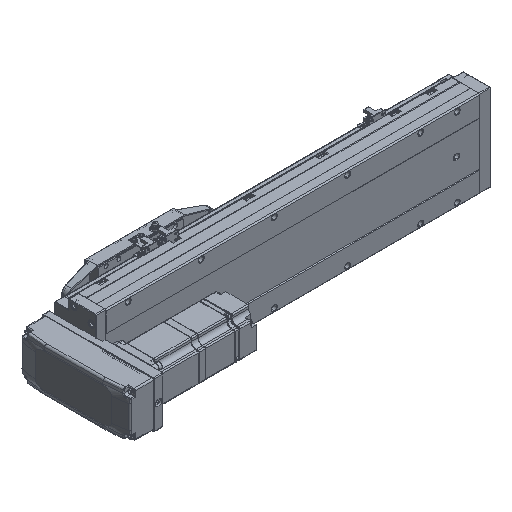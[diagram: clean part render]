
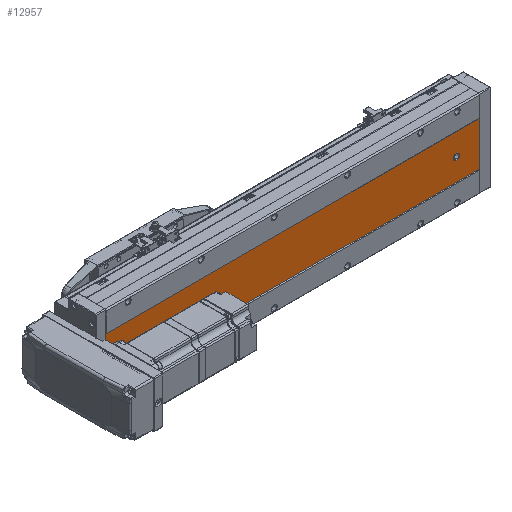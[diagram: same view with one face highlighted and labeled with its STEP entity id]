
A CAD part, isometric view. The second image highlights one B-rep face of the part: STEP entity #12957.
In plain terms, the highlighted planar face has unit normal (0, -1, 0).
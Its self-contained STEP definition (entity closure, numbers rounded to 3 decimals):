
#383 = EDGE_LOOP ( 'NONE', ( #14568, #51239 ) ) ;
#812 = DIRECTION ( 'NONE',  ( 1., 0., 0. ) ) ;
#1805 = CARTESIAN_POINT ( 'NONE',  ( -9.892, -52.848, 0. ) ) ;
#2476 = VERTEX_POINT ( 'NONE', #19369 ) ;
#2483 = LINE ( 'NONE', #50775, #40176 ) ;
#4201 = EDGE_CURVE ( 'NONE', #34751, #29923, #29673, .T. ) ;
#5401 = CARTESIAN_POINT ( 'NONE',  ( -39.892, -52.848, 30. ) ) ;
#6215 = CIRCLE ( 'NONE', #73179, 3.5 ) ;
#6667 = ORIENTED_EDGE ( 'NONE', *, *, #65552, .F. ) ;
#7366 = DIRECTION ( 'NONE',  ( 0., 0., 1. ) ) ;
#8337 = EDGE_LOOP ( 'NONE', ( #60287, #49416 ) ) ;
#8738 = DIRECTION ( 'NONE',  ( 0., 1., 0. ) ) ;
#9258 = CARTESIAN_POINT ( 'NONE',  ( -36.392, -52.848, 511. ) ) ;
#9900 = VECTOR ( 'NONE', #37860, 1000. ) ;
#10125 = VERTEX_POINT ( 'NONE', #61139 ) ;
#10602 = ORIENTED_EDGE ( 'NONE', *, *, #14073, .T. ) ;
#10719 = VECTOR ( 'NONE', #51504, 1000. ) ;
#11552 = VERTEX_POINT ( 'NONE', #50994 ) ;
#12726 = EDGE_CURVE ( 'NONE', #2476, #31392, #30517, .T. ) ;
#12957 = ADVANCED_FACE ( 'NONE', ( #43781, #24233, #59066, #28663 ), #33081, .F. ) ;
#13162 = CARTESIAN_POINT ( 'NONE',  ( -39.892, -52.848, 377.5 ) ) ;
#14073 = EDGE_CURVE ( 'NONE', #36992, #34751, #36427, .T. ) ;
#14568 = ORIENTED_EDGE ( 'NONE', *, *, #44673, .T. ) ;
#14685 = ORIENTED_EDGE ( 'NONE', *, *, #70851, .T. ) ;
#15507 = VERTEX_POINT ( 'NONE', #13162 ) ;
#16308 = CIRCLE ( 'NONE', #30354, 3.5 ) ;
#17006 = DIRECTION ( 'NONE',  ( 0., 1., 0. ) ) ;
#17032 = DIRECTION ( 'NONE',  ( 0., 0., 1. ) ) ;
#17387 = CARTESIAN_POINT ( 'NONE',  ( -39.892, -52.848, 32. ) ) ;
#17985 = EDGE_LOOP ( 'NONE', ( #62099, #71162, #6667, #14685 ) ) ;
#18173 = VECTOR ( 'NONE', #812, 1000. ) ;
#18674 = ORIENTED_EDGE ( 'NONE', *, *, #4201, .T. ) ;
#19369 = CARTESIAN_POINT ( 'NONE',  ( -39.892, -52.848, 484.5 ) ) ;
#19577 = VERTEX_POINT ( 'NONE', #60979 ) ;
#20067 = ORIENTED_EDGE ( 'NONE', *, *, #20276, .T. ) ;
#20192 = AXIS2_PLACEMENT_3D ( 'NONE', #51736, #68341, #52223 ) ;
#20265 = AXIS2_PLACEMENT_3D ( 'NONE', #38920, #56199, #53641 ) ;
#20276 = EDGE_CURVE ( 'NONE', #11552, #19577, #6215, .T. ) ;
#23156 = LINE ( 'NONE', #24145, #49885 ) ;
#24145 = CARTESIAN_POINT ( 'NONE',  ( -69.892, -52.848, 511. ) ) ;
#24233 = FACE_BOUND ( 'NONE', #383, .T. ) ;
#25915 = EDGE_CURVE ( 'NONE', #10125, #33991, #35031, .T. ) ;
#26821 = AXIS2_PLACEMENT_3D ( 'NONE', #49573, #8738, #72688 ) ;
#28663 = FACE_OUTER_BOUND ( 'NONE', #17985, .T. ) ;
#29673 = LINE ( 'NONE', #9258, #9900 ) ;
#29923 = VERTEX_POINT ( 'NONE', #39911 ) ;
#30274 = EDGE_CURVE ( 'NONE', #31392, #2476, #66541, .T. ) ;
#30354 = AXIS2_PLACEMENT_3D ( 'NONE', #46762, #36017, #7366 ) ;
#30517 = CIRCLE ( 'NONE', #37015, 3.5 ) ;
#31392 = VERTEX_POINT ( 'NONE', #36716 ) ;
#31412 = DIRECTION ( 'NONE',  ( 0., 0., 1. ) ) ;
#31647 = LINE ( 'NONE', #46667, #18173 ) ;
#33081 = PLANE ( 'NONE',  #20265 ) ;
#33991 = VERTEX_POINT ( 'NONE', #1805 ) ;
#34298 = CARTESIAN_POINT ( 'NONE',  ( -9.892, -52.848, 511. ) ) ;
#34374 = DIRECTION ( 'NONE',  ( 0., 0., -1. ) ) ;
#34677 = DIRECTION ( 'NONE',  ( 0., 1., 0. ) ) ;
#34751 = VERTEX_POINT ( 'NONE', #47742 ) ;
#35031 = LINE ( 'NONE', #73211, #44805 ) ;
#36017 = DIRECTION ( 'NONE',  ( 0., 1., 0. ) ) ;
#36249 = CARTESIAN_POINT ( 'NONE',  ( -43.392, -52.848, 32. ) ) ;
#36427 = CIRCLE ( 'NONE', #40427, 3.5 ) ;
#36716 = CARTESIAN_POINT ( 'NONE',  ( -39.892, -52.848, 477.5 ) ) ;
#36992 = VERTEX_POINT ( 'NONE', #36249 ) ;
#37015 = AXIS2_PLACEMENT_3D ( 'NONE', #54552, #66118, #65858 ) ;
#37127 = DIRECTION ( 'NONE',  ( 0., 1., 0. ) ) ;
#37860 = DIRECTION ( 'NONE',  ( 0., 0., -1. ) ) ;
#38920 = CARTESIAN_POINT ( 'NONE',  ( -69.892, -52.848, 511. ) ) ;
#39067 = ORIENTED_EDGE ( 'NONE', *, *, #43771, .T. ) ;
#39376 = DIRECTION ( 'NONE',  ( 1., 0., 0. ) ) ;
#39911 = CARTESIAN_POINT ( 'NONE',  ( -36.392, -52.848, 30. ) ) ;
#40176 = VECTOR ( 'NONE', #17032, 1000. ) ;
#40427 = AXIS2_PLACEMENT_3D ( 'NONE', #17387, #34677, #63491 ) ;
#40986 = ORIENTED_EDGE ( 'NONE', *, *, #51282, .T. ) ;
#41500 = CARTESIAN_POINT ( 'NONE',  ( -69.892, -52.848, 511. ) ) ;
#42051 = VERTEX_POINT ( 'NONE', #41500 ) ;
#43771 = EDGE_CURVE ( 'NONE', #29923, #11552, #65043, .T. ) ;
#43781 = FACE_BOUND ( 'NONE', #62612, .T. ) ;
#44673 = EDGE_CURVE ( 'NONE', #15507, #63192, #51427, .T. ) ;
#44805 = VECTOR ( 'NONE', #39376, 1000. ) ;
#46667 = CARTESIAN_POINT ( 'NONE',  ( -69.892, -52.848, 511. ) ) ;
#46762 = CARTESIAN_POINT ( 'NONE',  ( -39.892, -52.848, 381. ) ) ;
#46973 = EDGE_CURVE ( 'NONE', #71045, #33991, #56443, .T. ) ;
#47742 = CARTESIAN_POINT ( 'NONE',  ( -36.392, -52.848, 32. ) ) ;
#48382 = CARTESIAN_POINT ( 'NONE',  ( -39.892, -52.848, 30. ) ) ;
#49416 = ORIENTED_EDGE ( 'NONE', *, *, #12726, .T. ) ;
#49573 = CARTESIAN_POINT ( 'NONE',  ( -39.892, -52.848, 481. ) ) ;
#49885 = VECTOR ( 'NONE', #34374, 1000. ) ;
#50775 = CARTESIAN_POINT ( 'NONE',  ( -43.392, -52.848, 511. ) ) ;
#50994 = CARTESIAN_POINT ( 'NONE',  ( -39.892, -52.848, 26.5 ) ) ;
#51239 = ORIENTED_EDGE ( 'NONE', *, *, #66469, .T. ) ;
#51282 = EDGE_CURVE ( 'NONE', #19577, #36992, #2483, .T. ) ;
#51427 = CIRCLE ( 'NONE', #20192, 3.5 ) ;
#51459 = CARTESIAN_POINT ( 'NONE',  ( -39.892, -52.848, 384.5 ) ) ;
#51504 = DIRECTION ( 'NONE',  ( 0., 0., -1. ) ) ;
#51736 = CARTESIAN_POINT ( 'NONE',  ( -39.892, -52.848, 381. ) ) ;
#52223 = DIRECTION ( 'NONE',  ( 0., 0., 1. ) ) ;
#53641 = DIRECTION ( 'NONE',  ( 0., 0., 1. ) ) ;
#54552 = CARTESIAN_POINT ( 'NONE',  ( -39.892, -52.848, 481. ) ) ;
#56199 = DIRECTION ( 'NONE',  ( 0., 1., 0. ) ) ;
#56443 = LINE ( 'NONE', #34298, #10719 ) ;
#59066 = FACE_BOUND ( 'NONE', #8337, .T. ) ;
#60287 = ORIENTED_EDGE ( 'NONE', *, *, #30274, .T. ) ;
#60979 = CARTESIAN_POINT ( 'NONE',  ( -43.392, -52.848, 30. ) ) ;
#61139 = CARTESIAN_POINT ( 'NONE',  ( -69.892, -52.848, 0. ) ) ;
#62099 = ORIENTED_EDGE ( 'NONE', *, *, #25915, .T. ) ;
#62349 = DIRECTION ( 'NONE',  ( 0., 0., 1. ) ) ;
#62612 = EDGE_LOOP ( 'NONE', ( #10602, #18674, #39067, #20067, #40986 ) ) ;
#63192 = VERTEX_POINT ( 'NONE', #51459 ) ;
#63491 = DIRECTION ( 'NONE',  ( 0., 0., 1. ) ) ;
#65043 = CIRCLE ( 'NONE', #66676, 3.5 ) ;
#65552 = EDGE_CURVE ( 'NONE', #42051, #71045, #31647, .T. ) ;
#65858 = DIRECTION ( 'NONE',  ( 0., 0., 1. ) ) ;
#66097 = CARTESIAN_POINT ( 'NONE',  ( -9.892, -52.848, 511. ) ) ;
#66118 = DIRECTION ( 'NONE',  ( 0., 1., 0. ) ) ;
#66469 = EDGE_CURVE ( 'NONE', #63192, #15507, #16308, .T. ) ;
#66541 = CIRCLE ( 'NONE', #26821, 3.5 ) ;
#66676 = AXIS2_PLACEMENT_3D ( 'NONE', #48382, #37127, #31412 ) ;
#68341 = DIRECTION ( 'NONE',  ( 0., 1., 0. ) ) ;
#70851 = EDGE_CURVE ( 'NONE', #42051, #10125, #23156, .T. ) ;
#71045 = VERTEX_POINT ( 'NONE', #66097 ) ;
#71162 = ORIENTED_EDGE ( 'NONE', *, *, #46973, .F. ) ;
#72688 = DIRECTION ( 'NONE',  ( 0., 0., 1. ) ) ;
#73179 = AXIS2_PLACEMENT_3D ( 'NONE', #5401, #17006, #62349 ) ;
#73211 = CARTESIAN_POINT ( 'NONE',  ( -69.892, -52.848, 0. ) ) ;
